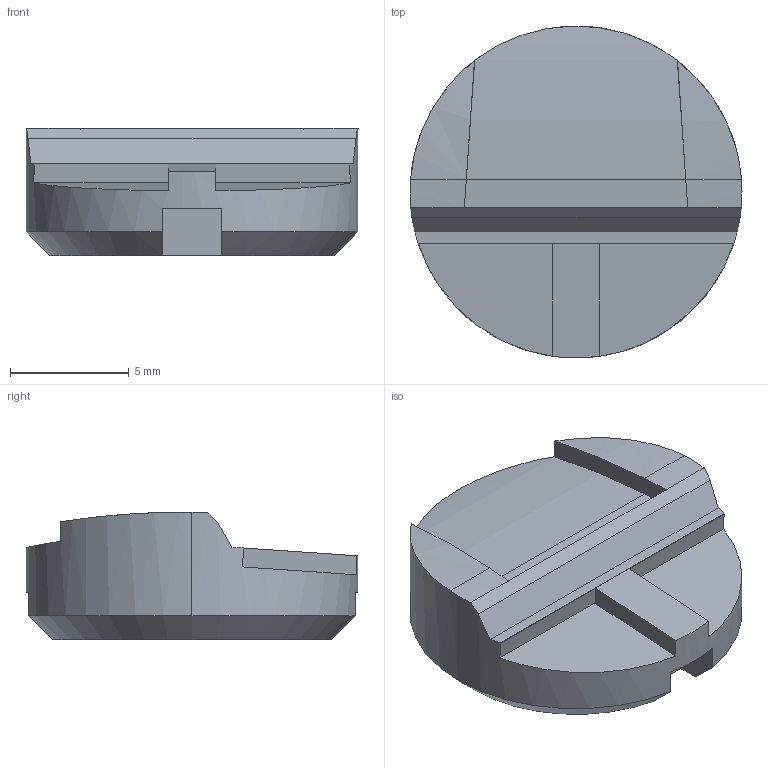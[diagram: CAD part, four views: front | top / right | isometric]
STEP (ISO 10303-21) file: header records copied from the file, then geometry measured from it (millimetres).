
FILE_DESCRIPTION (( 'STEP AP214' ), '1' );
FILE_NAME ('B1-chest-insert.step', '2023-08-03T13:47:49', ( '' ), ( '' ), 'SwSTEP 2.0', 'SolidWorks 2020', '' );
FILE_SCHEMA (( 'AUTOMOTIVE_DESIGN' ));
Length unit declared in the file: millimetre
Products named in the file (1): B1-chest-insert
Bounding box: 14 x 14 x 5.37 mm (x, y, z)
Volume: 598.5 mm3; surface area: 518.6 mm2
Topology: 1 solids, 1 shells, 34 faces, 93 edges, 61 vertices
Faces by surface type: plane 21, cylinder 8, cone 3, bspline 2
Entity records: 1221 total; most frequent: CARTESIAN_POINT 411, ORIENTED_EDGE 186, DIRECTION 130, EDGE_CURVE 93, VERTEX_POINT 61, AXIS2_PLACEMENT_3D 44, LINE 42, VECTOR 42
